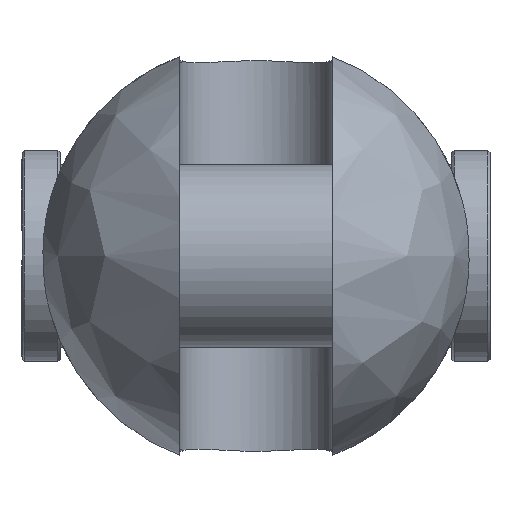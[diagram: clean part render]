
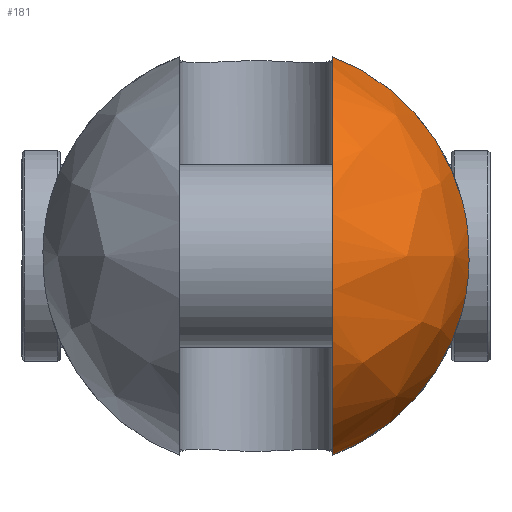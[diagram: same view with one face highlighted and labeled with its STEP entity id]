
A CAD part, left-side view. The second image highlights one B-rep face of the part: STEP entity #181.
In plain terms, the highlighted free-form (B-spline) face has degree [2, 2] with [9, 5] control points.
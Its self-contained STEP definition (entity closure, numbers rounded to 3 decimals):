
#181=ADVANCED_FACE('',(#324),#2453,.T.);
#324=FACE_OUTER_BOUND('',#487,.T.);
#487=EDGE_LOOP('',(#1212,#1213,#1214,#1215));
#1212=ORIENTED_EDGE('',*,*,#1603,.T.);
#1213=ORIENTED_EDGE('',*,*,#1627,.F.);
#1214=ORIENTED_EDGE('',*,*,#1639,.T.);
#1215=ORIENTED_EDGE('',*,*,#1619,.F.);
#1603=EDGE_CURVE('',#2283,#2282,#2013,.T.);
#1619=EDGE_CURVE('',#2283,#2295,#2023,.T.);
#1627=EDGE_CURVE('',#2302,#2282,#2024,.T.);
#1639=EDGE_CURVE('',#2302,#2295,#1815,.T.);
#1815=B_SPLINE_CURVE_WITH_KNOTS('',3,(#6251,#6252,#6253,#6254,#6255,#6256,
#6257,#6258,#6259,#6260,#6261,#6262,#6263,#6264),.UNSPECIFIED.,.F.,.F.,
(4,2,2,2,2,2,4),(0.,1.664,6.836,12.009,
17.181,22.354,24.018),.UNSPECIFIED.);
#2013=(
BOUNDED_CURVE()
B_SPLINE_CURVE(2,(#6027,#6028,#6029,#6030,#6031),.UNSPECIFIED.,.F.,.F.)
B_SPLINE_CURVE_WITH_KNOTS((3,2,3),(-130.452,-65.226,0.),
 .UNSPECIFIED.)
CURVE()
GEOMETRIC_REPRESENTATION_ITEM()
RATIONAL_B_SPLINE_CURVE((1.,0.707,1.,0.707,1.))
REPRESENTATION_ITEM('')
);
#2023=(
BOUNDED_CURVE()
B_SPLINE_CURVE(2,(#6121,#6122,#6123),.UNSPECIFIED.,.F.,.F.)
B_SPLINE_CURVE_WITH_KNOTS((3,3),(0.,42.049),.UNSPECIFIED.)
CURVE()
GEOMETRIC_REPRESENTATION_ITEM()
RATIONAL_B_SPLINE_CURVE((1.,0.89,1.))
REPRESENTATION_ITEM('')
);
#2024=(
BOUNDED_CURVE()
B_SPLINE_CURVE(2,(#6178,#6179,#6180),.UNSPECIFIED.,.F.,.F.)
B_SPLINE_CURVE_WITH_KNOTS((3,3),(0.,42.049),.UNSPECIFIED.)
CURVE()
GEOMETRIC_REPRESENTATION_ITEM()
RATIONAL_B_SPLINE_CURVE((1.,0.89,1.))
REPRESENTATION_ITEM('')
);
#2282=VERTEX_POINT('',#5887);
#2283=VERTEX_POINT('',#5888);
#2295=VERTEX_POINT('',#5900);
#2302=VERTEX_POINT('',#5907);
#2453=(
BOUNDED_SURFACE()
B_SPLINE_SURFACE(2,2,((#5601,#5602,#5603,#5604,#5605),(#5606,#5607,#5608,
#5609,#5610),(#5611,#5612,#5613,#5614,#5615),(#5616,#5617,#5618,#5619,#5620),
(#5621,#5622,#5623,#5624,#5625),(#5626,#5627,#5628,#5629,#5630),(#5631,
#5632,#5633,#5634,#5635),(#5636,#5637,#5638,#5639,#5640),(#5641,#5642,#5643,
#5644,#5645)),.UNSPECIFIED.,.T.,.F.,.F.)
B_SPLINE_SURFACE_WITH_KNOTS((3,2,2,2,3),(3,2,3),(0.,69.9,139.801,
209.701,279.602),(0.,69.9,139.801),
 .UNSPECIFIED.)
GEOMETRIC_REPRESENTATION_ITEM()
RATIONAL_B_SPLINE_SURFACE(((1.,0.707,1.,0.707,1.),
(0.707,0.5,0.707,0.5,0.707),(1.,0.707,
1.,0.707,1.),(0.707,0.5,0.707,0.5,0.707),
(1.,0.707,1.,0.707,1.),(0.707,0.5,0.707,
0.5,0.707),(1.,0.707,1.,0.707,1.),(0.707,
0.5,0.707,0.5,0.707),(1.,0.707,1.,0.707,
1.)))
REPRESENTATION_ITEM('')
SURFACE()
);
#5601=CARTESIAN_POINT('',(-64.5,0.,0.));
#5602=CARTESIAN_POINT('',(-64.5,44.5,0.));
#5603=CARTESIAN_POINT('',(-20.,44.5,0.));
#5604=CARTESIAN_POINT('',(24.5,44.5,0.));
#5605=CARTESIAN_POINT('',(24.5,0.,0.));
#5606=CARTESIAN_POINT('',(-64.5,0.,0.));
#5607=CARTESIAN_POINT('',(-64.5,44.5,44.5));
#5608=CARTESIAN_POINT('',(-20.,44.5,44.5));
#5609=CARTESIAN_POINT('',(24.5,44.5,44.5));
#5610=CARTESIAN_POINT('',(24.5,0.,0.));
#5611=CARTESIAN_POINT('',(-64.5,0.,0.));
#5612=CARTESIAN_POINT('',(-64.5,0.,44.5));
#5613=CARTESIAN_POINT('',(-20.,0.,44.5));
#5614=CARTESIAN_POINT('',(24.5,0.,44.5));
#5615=CARTESIAN_POINT('',(24.5,0.,0.));
#5616=CARTESIAN_POINT('',(-64.5,0.,0.));
#5617=CARTESIAN_POINT('',(-64.5,-44.5,44.5));
#5618=CARTESIAN_POINT('',(-20.,-44.5,44.5));
#5619=CARTESIAN_POINT('',(24.5,-44.5,44.5));
#5620=CARTESIAN_POINT('',(24.5,0.,0.));
#5621=CARTESIAN_POINT('',(-64.5,0.,0.));
#5622=CARTESIAN_POINT('',(-64.5,-44.5,0.));
#5623=CARTESIAN_POINT('',(-20.,-44.5,0.));
#5624=CARTESIAN_POINT('',(24.5,-44.5,0.));
#5625=CARTESIAN_POINT('',(24.5,0.,0.));
#5626=CARTESIAN_POINT('',(-64.5,0.,0.));
#5627=CARTESIAN_POINT('',(-64.5,-44.5,-44.5));
#5628=CARTESIAN_POINT('',(-20.,-44.5,-44.5));
#5629=CARTESIAN_POINT('',(24.5,-44.5,-44.5));
#5630=CARTESIAN_POINT('',(24.5,0.,0.));
#5631=CARTESIAN_POINT('',(-64.5,0.,0.));
#5632=CARTESIAN_POINT('',(-64.5,0.,-44.5));
#5633=CARTESIAN_POINT('',(-20.,0.,-44.5));
#5634=CARTESIAN_POINT('',(24.5,0.,-44.5));
#5635=CARTESIAN_POINT('',(24.5,0.,0.));
#5636=CARTESIAN_POINT('',(-64.5,0.,0.));
#5637=CARTESIAN_POINT('',(-64.5,44.5,-44.5));
#5638=CARTESIAN_POINT('',(-20.,44.5,-44.5));
#5639=CARTESIAN_POINT('',(24.5,44.5,-44.5));
#5640=CARTESIAN_POINT('',(24.5,0.,0.));
#5641=CARTESIAN_POINT('',(-64.5,0.,0.));
#5642=CARTESIAN_POINT('',(-64.5,44.5,0.));
#5643=CARTESIAN_POINT('',(-20.,44.5,0.));
#5644=CARTESIAN_POINT('',(24.5,44.5,0.));
#5645=CARTESIAN_POINT('',(24.5,0.,0.));
#5887=CARTESIAN_POINT('',(-20.,-16.,-41.524));
#5888=CARTESIAN_POINT('',(-20.,-16.,41.524));
#5900=CARTESIAN_POINT('',(-20.,-43.026,11.358));
#5907=CARTESIAN_POINT('',(-20.,-43.026,-11.358));
#6027=CARTESIAN_POINT('',(-20.,-16.,41.524));
#6028=CARTESIAN_POINT('',(-61.524,-16.,41.524));
#6029=CARTESIAN_POINT('',(-61.524,-16.,0.));
#6030=CARTESIAN_POINT('',(-61.524,-16.,-41.524));
#6031=CARTESIAN_POINT('',(-20.,-16.,-41.524));
#6121=CARTESIAN_POINT('',(-20.,-16.,41.524));
#6122=CARTESIAN_POINT('',(-20.,-37.222,33.347));
#6123=CARTESIAN_POINT('',(-20.,-43.026,11.358));
#6178=CARTESIAN_POINT('',(-20.,-43.026,-11.358));
#6179=CARTESIAN_POINT('',(-20.,-37.222,-33.347));
#6180=CARTESIAN_POINT('',(-20.,-16.,-41.524));
#6251=CARTESIAN_POINT('',(-20.,-43.026,-11.358));
#6252=CARTESIAN_POINT('',(-20.27,-43.152,-10.882));
#6253=CARTESIAN_POINT('',(-20.524,-43.269,-10.395));
#6254=CARTESIAN_POINT('',(-21.497,-43.718,-8.355));
#6255=CARTESIAN_POINT('',(-22.065,-43.976,-6.715));
#6256=CARTESIAN_POINT('',(-22.816,-44.316,-3.37));
#6257=CARTESIAN_POINT('',(-23.,-44.399,-1.665));
#6258=CARTESIAN_POINT('',(-23.,-44.399,1.665));
#6259=CARTESIAN_POINT('',(-22.816,-44.316,3.37));
#6260=CARTESIAN_POINT('',(-22.065,-43.976,6.715));
#6261=CARTESIAN_POINT('',(-21.497,-43.718,8.355));
#6262=CARTESIAN_POINT('',(-20.524,-43.269,10.395));
#6263=CARTESIAN_POINT('',(-20.27,-43.152,10.882));
#6264=CARTESIAN_POINT('',(-20.,-43.026,11.358));
